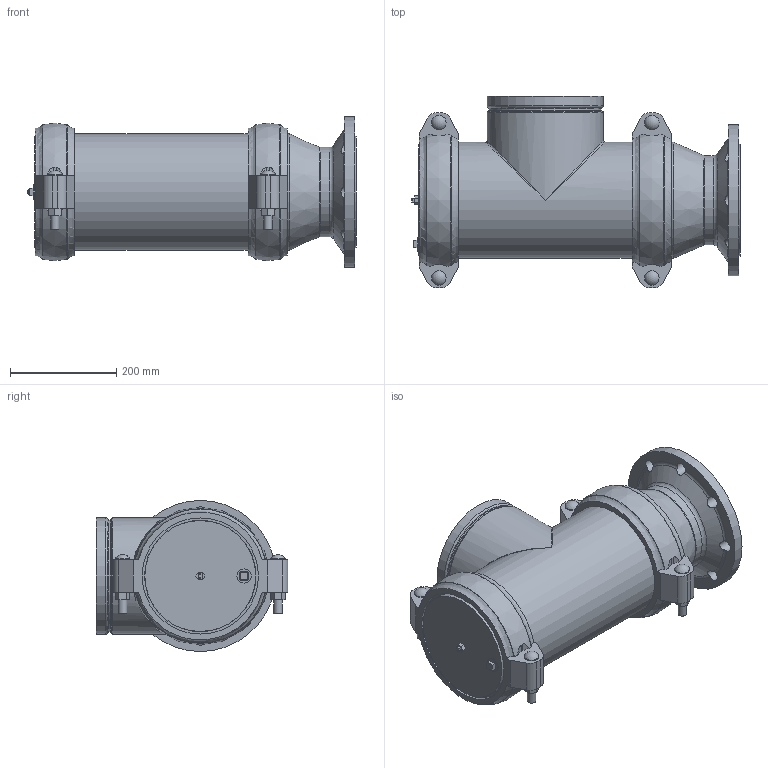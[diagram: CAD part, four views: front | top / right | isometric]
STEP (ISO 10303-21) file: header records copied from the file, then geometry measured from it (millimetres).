
FILE_DESCRIPTION(/* description */ ('VIC STRENGTHIN SUCTION DIFFUSER SERIES E431','CAx-IF Rec.Pracs.---Representation and Presentation of Product Manufacturing Information (PMI)---4.0---2014-10-13'),/* implementation_level */ '2;1');
FILE_NAME(/* name */ 'C:\Users\Vjadhav\AppData\Roaming\Autodesk\ApplicationPlugins\Back Up\Victaulic_SS-StrengThin 100_Suction Diffuser_PN16_Series E431 (ST1xFLG)\Victaulic_SS-StrengThin 100_Suction Diffuser_PN16_08.0x06.0 (200x150).stp',/* time_stamp */ '2020-07-07T13:03:04+06:00',/* author */ ('VJadhav'),/* organization */ ('Victaulic'),/* preprocessor_version */ 'ST-DEVELOPER v17.2',/* originating_system */ 'Autodesk Inventor 2019',/* authorisation */ '');
FILE_SCHEMA (('AP242_MANAGED_MODEL_BASED_3D_ENGINEERING_MIM_LF { 1 0 10303 442 1 1 4 }'));
Length unit declared in the file: inch
Products named in the file (5): E431-08.0x06.0; E492-08.0; E431-08.0; E497-08.0; E431-08.0_1
Assembly tree (5 placements, depth 2):
  E431-08.0x06.0
    E492-08.0
    E497-08.0  x2
    E431-08.0
    E431-08.0_1
Bounding box: 619.25 x 361.44 x 284.99 mm (x, y, z)
Volume: 6439119.6 mm3; surface area: 1363181.5 mm2
Topology: 5 solids, 9 shells, 322 faces, 906 edges, 618 vertices
Faces by surface type: plane 118, cylinder 108, torus 66, cone 12, sphere 12, bspline 6
Full cylindrical faces by diameter (mm): 15.875 x8, 22.098 x8, 26.67 x1, 27.381 x4, 156.972 x1, 159.258 x1, 163.83 x1, 168.402 x1, 205.207 x3, 206.375 x2, 209.55 x1, 210.82 x1, 211.201 x3, 213.081 x5, 219.075 x11, 284.988 x1
Entity records: 9361 total; most frequent: CARTESIAN_POINT 2181, DIRECTION 1539, ORIENTED_EDGE 1398, EDGE_CURVE 699, AXIS2_PLACEMENT_3D 660, VERTEX_POINT 480, CIRCLE 400, EDGE_LOOP 283
